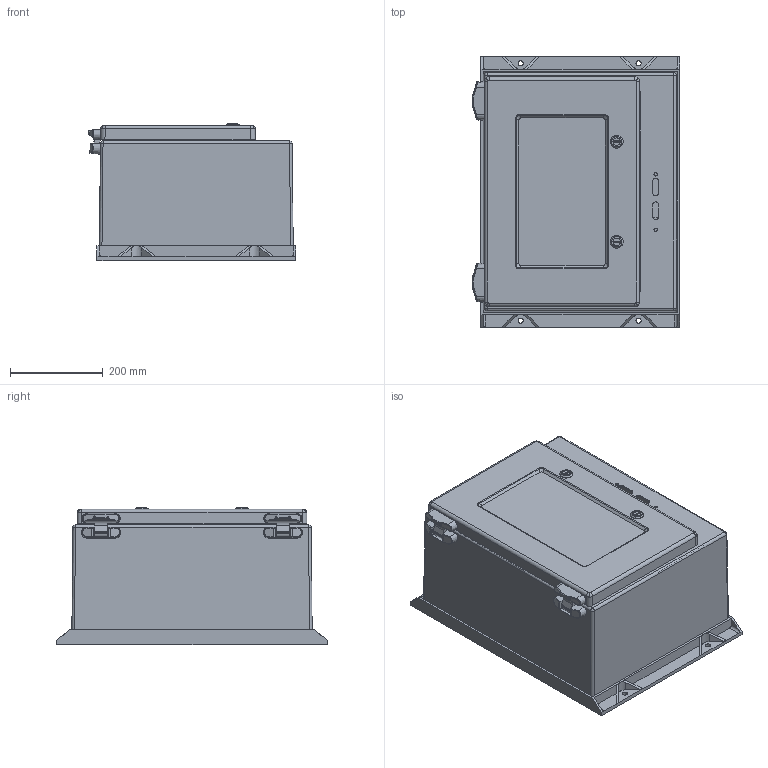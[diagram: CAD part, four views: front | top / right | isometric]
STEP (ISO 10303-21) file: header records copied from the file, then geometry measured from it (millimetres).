
FILE_DESCRIPTION (( 'STEP AP203' ), '1' );
FILE_NAME ('a20hs1610gqrlp.STEP', '2011-09-26T17:00:44', ( 'Hoffman User' ), ( 'Hoffman Enclosures' ), 'SwSTEP 2.0', 'SolidWorks 2010', '' );
FILE_SCHEMA (( 'CONFIG_CONTROL_DESIGN' ));
Length unit declared in the file: inch
Products named in the file (17): a20hs1610gqrlp; BodyAssyMed_20x16x10; BodyMed_20x16x10; GroundBar_20_24_30_20in_24in; A17WD_HingeBody; DoorAssy_20x16; Door_20x16; 87578440_latch; 1000-U134_ASM; 1000-101-PF_PRT; 1000-U142_ASM; 1000-277-01; 1000-03; 1000-318; cam_1000-25; BrktDoorCatch; A17WD_HingeDoor
Assembly tree (20 placements, depth 5):
  a20hs1610gqrlp
    DoorAssy_20x16
      87578440_latch  x2
        1000-U134_ASM
          1000-101-PF_PRT  x2
        cam_1000-25
        1000-U142_ASM
          1000-277-01
          1000-03
          1000-318
      A17WD_HingeDoor  x2
      Door_20x16
      BrktDoorCatch
    BodyAssyMed_20x16x10
      A17WD_HingeBody  x2
      GroundBar_20_24_30_20in_24in
      BodyMed_20x16x10
Bounding box: 446.14 x 583.39 x 295.05 mm (x, y, z)
Volume: 4790052.9 mm3; surface area: 2416091.2 mm2
Topology: 16 solids, 28 shells, 1432 faces, 3532 edges, 2176 vertices
Faces by surface type: plane 644, cylinder 550, bspline 128, cone 72, torus 26, sphere 12
Entity records: 31130 total; most frequent: CARTESIAN_POINT 7943, ORIENTED_EDGE 4478, DIRECTION 4422, EDGE_CURVE 2243, AXIS2_PLACEMENT_3D 1573, VERTEX_POINT 1386, LINE 1276, VECTOR 1276
